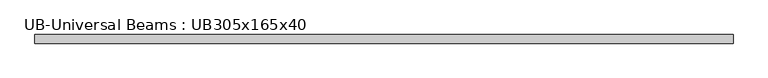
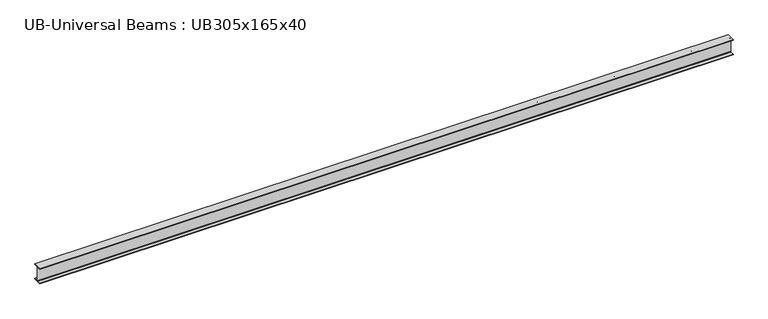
"""IFC4 building model written with IfcOpenShell, lengths in millimetres: beam geometry, UB-Universal Beams : UB305x165x40."""

from ifc_helpers import new_model, si_unit, point, frame, frame_2d, origin, place, context, project, spatial, polyline, circle_curve, trimmed, segment, composite_curve, outline, extrude, source, transform, mapped, element, save


def ub_universal_beams_ub305x165x40_9f48e393(model_context):
    return source(origin(), model_context, "Body", "SweptSolid", [
        extrude(outline(composite_curve([segment(polyline([(82.5, -141.5), (82.5, -151.7), (-82.5, -151.7), (-82.5, -141.5), (-11.9, -141.5)]), True, "CONTINUOUS"), segment(trimmed(circle_curve(frame_2d((-11.9, -132.6)), 8.9), [point((-11.9, -141.5))], [point((-3.0, -132.6))], True, "CARTESIAN"), True, "CONTINUOUS"), segment(polyline([(-3.0, -132.6), (-3.0, 132.6)]), True, "CONTINUOUS"), segment(trimmed(circle_curve(frame_2d((-11.9, 132.6)), 8.9), [point((-3.0, 132.6))], [point((-11.9, 141.5))], True, "CARTESIAN"), True, "CONTINUOUS"), segment(polyline([(-11.9, 141.5), (-82.5, 141.5), (-82.5, 151.7), (82.5, 151.7), (82.5, 141.5), (11.9, 141.5)]), True, "CONTINUOUS"), segment(trimmed(circle_curve(frame_2d((11.9, 132.6)), 8.9), [point((11.9, 141.5))], [point((3.0, 132.6))], True, "CARTESIAN"), True, "CONTINUOUS"), segment(polyline([(3.0, 132.6), (3.0, -132.6)]), True, "CONTINUOUS"), segment(trimmed(circle_curve(frame_2d((11.9, -132.6)), 8.9), [point((3.0, -132.6))], [point((11.9, -141.5))], True, "CARTESIAN"), True, "CONTINUOUS"), segment(polyline([(11.9, -141.5), (82.5, -141.5)]), True, "CONTINUOUS")], self_intersect=False)), frame((-6640.4, 0.0, 0.0), z_axis=(1.0, 0.0, 0.0), x_axis=(0.0, 1.0, 0.0)), (0.0, 0.0, 1.0), 13310.0),
    ])


if __name__ == "__main__":
    model = new_model("IFC4")
    model_context = context("Model", 3, world=origin())
    ifc_project = project(units=[si_unit("LENGTHUNIT", "METRE", prefix="MILLI")], contexts=[model_context])
    site = spatial("IfcSite", under=ifc_project)
    building = spatial("IfcBuilding", under=site)
    placement = place(None, origin())
    ub_universal_beams_ub305x165x40_shape = ub_universal_beams_ub305x165x40_9f48e393(model_context)
    element("IfcBeam", 1, ObjectType="UB-Universal Beams : UB305x165x40", at=placement, inside=building, context=model_context, shape_type="MappedRepresentation", body=[
        mapped(ub_universal_beams_ub305x165x40_shape, transform((0.0, 0.0, 0.0), x_axis=(1.0, 0.0, 0.0), y_axis=(0.0, 1.0, 0.0), z_axis=(0.0, 0.0, 1.0))),
    ])
    save(model, "model.ifc")
